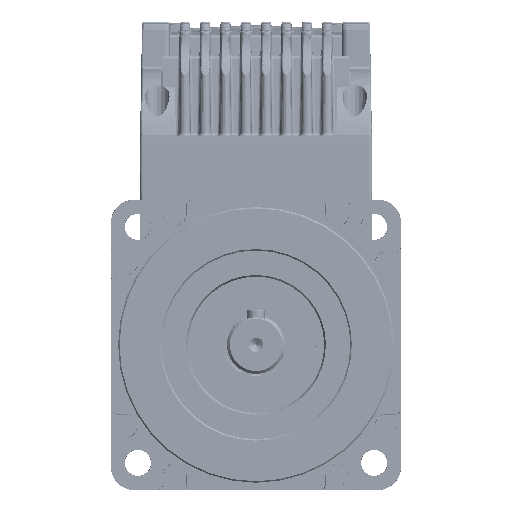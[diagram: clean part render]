
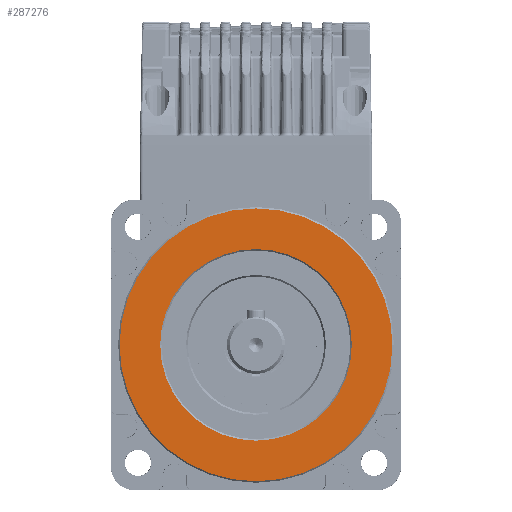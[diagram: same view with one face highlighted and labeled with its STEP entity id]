
A CAD part, front view. The second image highlights one B-rep face of the part: STEP entity #287276.
In plain terms, the highlighted planar face has unit normal (0, -1, 0).
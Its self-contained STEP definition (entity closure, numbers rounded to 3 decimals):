
#287106=AXIS2_PLACEMENT_3D('Circle Axis2P3D',#287104,#287105,$) ;
#287115=AXIS2_PLACEMENT_3D('Circle Axis2P3D',#287113,#287114,$) ;
#287153=AXIS2_PLACEMENT_3D('Circle Axis2P3D',#287151,#287152,$) ;
#287160=AXIS2_PLACEMENT_3D('Circle Axis2P3D',#287158,#287159,$) ;
#287193=AXIS2_PLACEMENT_3D('Circle Axis2P3D',#287191,#287192,$) ;
#287200=AXIS2_PLACEMENT_3D('Circle Axis2P3D',#287198,#287199,$) ;
#287233=AXIS2_PLACEMENT_3D('Circle Axis2P3D',#287231,#287232,$) ;
#287240=AXIS2_PLACEMENT_3D('Circle Axis2P3D',#287238,#287239,$) ;
#287262=AXIS2_PLACEMENT_3D('Plane Axis2P3D',#287259,#287260,#287261) ;
#287104=CARTESIAN_POINT('Axis2P3D Location',(0.,-2.5,0.)) ;
#287108=CARTESIAN_POINT('Vertex',(33.,-2.5,0.)) ;
#287110=CARTESIAN_POINT('Vertex',(0.,-2.5,-33.)) ;
#287113=CARTESIAN_POINT('Axis2P3D Location',(0.,-2.5,0.)) ;
#287117=CARTESIAN_POINT('Vertex',(0.,-2.5,33.)) ;
#287151=CARTESIAN_POINT('Axis2P3D Location',(0.,-2.5,0.)) ;
#287155=CARTESIAN_POINT('Vertex',(-33.,-2.5,0.)) ;
#287158=CARTESIAN_POINT('Axis2P3D Location',(0.,-2.5,0.)) ;
#287188=CARTESIAN_POINT('Vertex',(0.,-2.5,47.)) ;
#287191=CARTESIAN_POINT('Axis2P3D Location',(0.,-2.5,0.)) ;
#287195=CARTESIAN_POINT('Vertex',(47.,-2.5,0.)) ;
#287198=CARTESIAN_POINT('Axis2P3D Location',(0.,-2.5,0.)) ;
#287202=CARTESIAN_POINT('Vertex',(0.,-2.5,-47.)) ;
#287231=CARTESIAN_POINT('Axis2P3D Location',(0.,-2.5,0.)) ;
#287235=CARTESIAN_POINT('Vertex',(-47.,-2.5,0.)) ;
#287238=CARTESIAN_POINT('Axis2P3D Location',(0.,-2.5,0.)) ;
#287259=CARTESIAN_POINT('Axis2P3D Location',(0.,-2.5,21.5)) ;
#287105=DIRECTION('Axis2P3D Direction',(0.,-1.,0.)) ;
#287114=DIRECTION('Axis2P3D Direction',(0.,-1.,0.)) ;
#287152=DIRECTION('Axis2P3D Direction',(0.,-1.,0.)) ;
#287159=DIRECTION('Axis2P3D Direction',(0.,-1.,0.)) ;
#287192=DIRECTION('Axis2P3D Direction',(0.,1.,0.)) ;
#287199=DIRECTION('Axis2P3D Direction',(0.,1.,0.)) ;
#287232=DIRECTION('Axis2P3D Direction',(0.,1.,0.)) ;
#287239=DIRECTION('Axis2P3D Direction',(0.,1.,0.)) ;
#287260=DIRECTION('Axis2P3D Direction',(0.,-1.,0.)) ;
#287261=DIRECTION('Axis2P3D XDirection',(0.,0.,-1.)) ;
#287265=ORIENTED_EDGE('',*,*,#287197,.T.) ;
#287266=ORIENTED_EDGE('',*,*,#287242,.T.) ;
#287267=ORIENTED_EDGE('',*,*,#287237,.T.) ;
#287268=ORIENTED_EDGE('',*,*,#287204,.T.) ;
#287271=ORIENTED_EDGE('',*,*,#287112,.T.) ;
#287272=ORIENTED_EDGE('',*,*,#287162,.T.) ;
#287273=ORIENTED_EDGE('',*,*,#287157,.T.) ;
#287274=ORIENTED_EDGE('',*,*,#287119,.T.) ;
#287275=FACE_BOUND('',#287270,.T.) ;
#287276=ADVANCED_FACE('N33454',(#287269,#287275),#287263,.T.) ;
#287107=CIRCLE('generated circle',#287106,33.) ;
#287116=CIRCLE('generated circle',#287115,33.) ;
#287154=CIRCLE('generated circle',#287153,33.) ;
#287161=CIRCLE('generated circle',#287160,33.) ;
#287194=CIRCLE('generated circle',#287193,47.) ;
#287201=CIRCLE('generated circle',#287200,47.) ;
#287234=CIRCLE('generated circle',#287233,47.) ;
#287241=CIRCLE('generated circle',#287240,47.) ;
#287112=EDGE_CURVE('',#287109,#287111,#287107,.F.) ;
#287119=EDGE_CURVE('',#287118,#287109,#287116,.F.) ;
#287157=EDGE_CURVE('',#287156,#287118,#287154,.F.) ;
#287162=EDGE_CURVE('',#287111,#287156,#287161,.F.) ;
#287197=EDGE_CURVE('',#287196,#287189,#287194,.F.) ;
#287204=EDGE_CURVE('',#287203,#287196,#287201,.F.) ;
#287237=EDGE_CURVE('',#287236,#287203,#287234,.F.) ;
#287242=EDGE_CURVE('',#287189,#287236,#287241,.F.) ;
#287264=EDGE_LOOP('',(#287265,#287266,#287267,#287268)) ;
#287270=EDGE_LOOP('',(#287271,#287272,#287273,#287274)) ;
#287269=FACE_OUTER_BOUND('',#287264,.T.) ;
#287263=PLANE('Plane',#287262) ;
#287109=VERTEX_POINT('',#287108) ;
#287111=VERTEX_POINT('',#287110) ;
#287118=VERTEX_POINT('',#287117) ;
#287156=VERTEX_POINT('',#287155) ;
#287189=VERTEX_POINT('',#287188) ;
#287196=VERTEX_POINT('',#287195) ;
#287203=VERTEX_POINT('',#287202) ;
#287236=VERTEX_POINT('',#287235) ;
